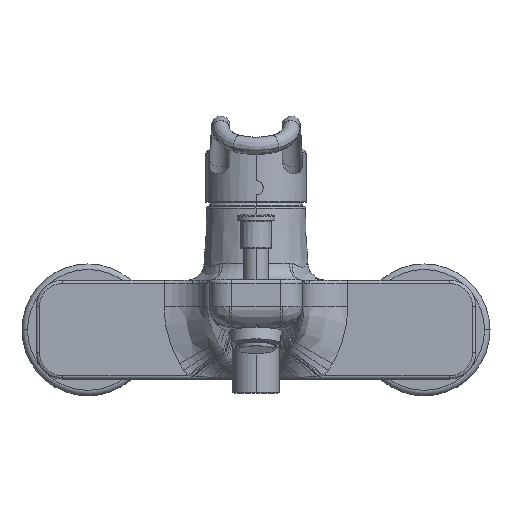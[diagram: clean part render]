
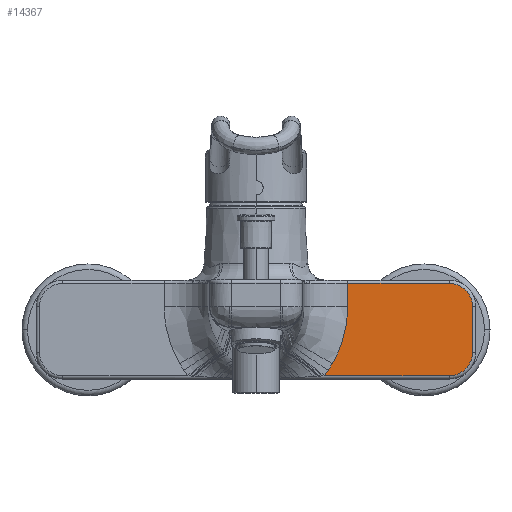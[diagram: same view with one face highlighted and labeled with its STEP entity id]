
A CAD part, top view. The second image highlights one B-rep face of the part: STEP entity #14367.
In plain terms, the highlighted planar face has unit normal (0, 0, 1).
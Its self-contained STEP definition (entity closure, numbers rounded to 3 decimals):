
#2786=CARTESIAN_POINT('',(88.,-21.,14.));
#2863=DIRECTION('',(-1.,0.,0.));
#2864=VECTOR('',#2863,46.205);
#2865=CARTESIAN_POINT('',(88.,21.,14.));
#2866=LINE('',#2865,#2864);
#2867=CARTESIAN_POINT('',(88.,10.5,14.));
#2868=DIRECTION('',(0.,0.,1.));
#2869=DIRECTION('',(1.,0.,0.));
#2870=AXIS2_PLACEMENT_3D('',#2867,#2868,#2869);
#2872=DIRECTION('',(0.,1.,0.));
#2873=VECTOR('',#2872,21.);
#2874=CARTESIAN_POINT('',(98.5,-10.5,14.));
#2875=LINE('',#2874,#2873);
#2876=CARTESIAN_POINT('',(88.,-10.5,14.));
#2877=DIRECTION('',(0.,0.,1.));
#2878=DIRECTION('',(0.,-1.,0.));
#2879=AXIS2_PLACEMENT_3D('',#2876,#2877,#2878);
#2881=DIRECTION('',(1.,0.,0.));
#2882=VECTOR('',#2881,56.866);
#2883=CARTESIAN_POINT('',(31.134,-21.,14.));
#2884=LINE('',#2883,#2882);
#2885=CARTESIAN_POINT('',(32.857,-18.6,14.));
#2886=CARTESIAN_POINT('',(32.672,-18.875,14.));
#2887=CARTESIAN_POINT('',(32.297,-19.418,14.));
#2888=CARTESIAN_POINT('',(31.722,-20.218,14.));
#2889=CARTESIAN_POINT('',(31.331,-20.741,14.));
#2890=CARTESIAN_POINT('',(31.134,-21.,14.));
#2892=CARTESIAN_POINT('',(34.764,-15.556,14.));
#2893=CARTESIAN_POINT('',(34.562,-15.905,14.));
#2894=CARTESIAN_POINT('',(34.151,-16.597,14.));
#2895=CARTESIAN_POINT('',(33.515,-17.611,14.));
#2896=CARTESIAN_POINT('',(33.079,-18.273,14.));
#2897=CARTESIAN_POINT('',(32.857,-18.6,14.));
#2899=CARTESIAN_POINT('',(41.795,10.5,14.));
#2900=CARTESIAN_POINT('',(41.795,9.596,14.));
#2901=CARTESIAN_POINT('',(41.747,7.79,14.));
#2902=CARTESIAN_POINT('',(41.534,5.083,14.));
#2903=CARTESIAN_POINT('',(41.178,2.39,14.));
#2904=CARTESIAN_POINT('',(40.68,-0.283,
14.));
#2905=CARTESIAN_POINT('',(40.042,-2.931,14.));
#2906=CARTESIAN_POINT('',(39.264,-5.547,14.));
#2907=CARTESIAN_POINT('',(38.348,-8.124,14.));
#2908=CARTESIAN_POINT('',(37.295,-10.657,14.));
#2909=CARTESIAN_POINT('',(36.106,-13.141,14.));
#2910=CARTESIAN_POINT('',(35.226,-14.757,14.));
#2911=CARTESIAN_POINT('',(34.764,-15.556,14.));
#2913=DIRECTION('',(0.,-1.,0.));
#2914=VECTOR('',#2913,10.5);
#2915=CARTESIAN_POINT('',(41.795,21.,14.));
#2916=LINE('',#2915,#2914);
#7172=VERTEX_POINT('',#2885);
#7173=VERTEX_POINT('',#2890);
#7175=VERTEX_POINT('',#2892);
#7177=VERTEX_POINT('',#2899);
#7204=CARTESIAN_POINT('',(88.,21.,14.));
#7205=CARTESIAN_POINT('',(41.795,21.,14.));
#7206=VERTEX_POINT('',#7204);
#7207=VERTEX_POINT('',#7205);
#7212=CARTESIAN_POINT('',(98.5,10.5,14.));
#7213=VERTEX_POINT('',#7212);
#7216=CARTESIAN_POINT('',(98.5,-10.5,14.));
#7217=VERTEX_POINT('',#7216);
#7220=VERTEX_POINT('',#2786);
#14347=CARTESIAN_POINT('',(0.,0.,14.));
#14348=DIRECTION('',(0.,0.,1.));
#14349=DIRECTION('',(1.,0.,0.));
#14350=AXIS2_PLACEMENT_3D('',#14347,#14348,#14349);
#14351=PLANE('',#14350);
#14353=ORIENTED_EDGE('',*,*,#14352,.F.);
#14355=ORIENTED_EDGE('',*,*,#14354,.F.);
#14357=ORIENTED_EDGE('',*,*,#14356,.F.);
#14359=ORIENTED_EDGE('',*,*,#14358,.F.);
#14360=ORIENTED_EDGE('',*,*,#13851,.F.);
#14361=ORIENTED_EDGE('',*,*,#13072,.F.);
#14362=ORIENTED_EDGE('',*,*,#13107,.F.);
#14363=ORIENTED_EDGE('',*,*,#13369,.F.);
#14364=ORIENTED_EDGE('',*,*,#13382,.F.);
#14365=EDGE_LOOP('',(#14353,#14355,#14357,#14359,#14360,#14361,#14362,#14363,
#14364));
#14366=FACE_OUTER_BOUND('',#14365,.F.);
#14367=ADVANCED_FACE('',(#14366),#14351,.T.);
#2871=CIRCLE('',#2870,10.5);
#2880=CIRCLE('',#2879,10.5);
#2891=B_SPLINE_CURVE_WITH_KNOTS('',3,(#2885,#2886,#2887,#2888,#2889,#2890),
.UNSPECIFIED.,.F.,.F.,(4,1,1,4),(0.,0.333,0.667,1.),
.UNSPECIFIED.);
#2898=B_SPLINE_CURVE_WITH_KNOTS('',3,(#2892,#2893,#2894,#2895,#2896,#2897),
.UNSPECIFIED.,.F.,.F.,(4,1,1,4),(0.,0.333,0.667,1.),
.UNSPECIFIED.);
#2912=B_SPLINE_CURVE_WITH_KNOTS('',3,(#2899,#2900,#2901,#2902,#2903,#2904,#2905,
#2906,#2907,#2908,#2909,#2910,#2911),.UNSPECIFIED.,.F.,.F.,(4,1,1,1,1,1,1,1,1,1,
4),(0.,0.1,0.2,0.3,0.4,0.5,0.6,0.7,0.8,0.9,1.),
.UNSPECIFIED.);
#13072=EDGE_CURVE('',#7172,#7173,#2891,.T.);
#13107=EDGE_CURVE('',#7175,#7172,#2898,.T.);
#13369=EDGE_CURVE('',#7177,#7175,#2912,.T.);
#13382=EDGE_CURVE('',#7207,#7177,#2916,.T.);
#13851=EDGE_CURVE('',#7173,#7220,#2884,.T.);
#14352=EDGE_CURVE('',#7206,#7207,#2866,.T.);
#14354=EDGE_CURVE('',#7213,#7206,#2871,.T.);
#14356=EDGE_CURVE('',#7217,#7213,#2875,.T.);
#14358=EDGE_CURVE('',#7220,#7217,#2880,.T.);
